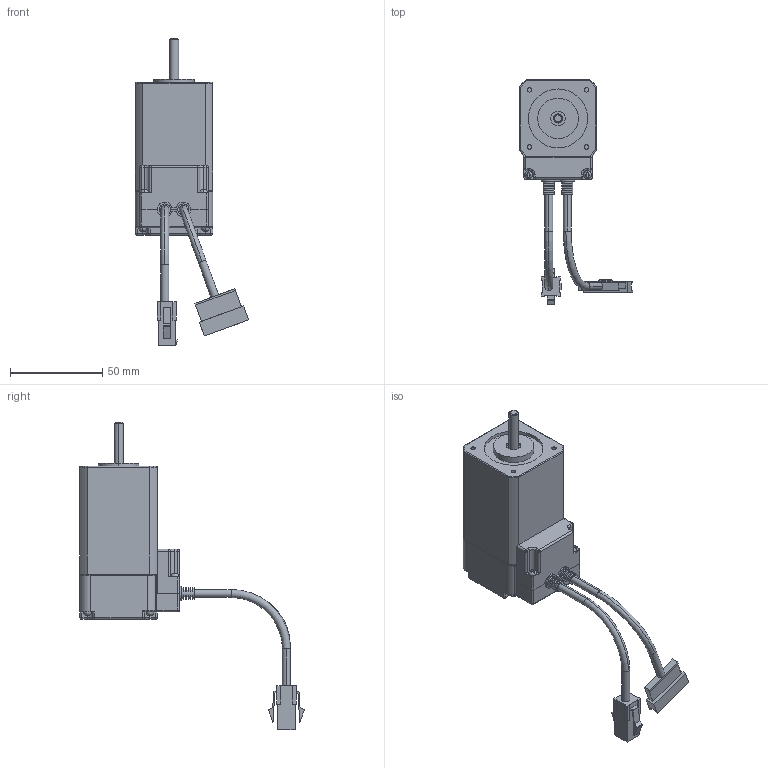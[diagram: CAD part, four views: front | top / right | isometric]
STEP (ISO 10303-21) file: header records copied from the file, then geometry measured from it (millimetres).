
FILE_DESCRIPTION (( 'STEP AP203' ), '1' );
FILE_NAME ('EzM-42XL Assembly_091218.STEP', '2013-11-19T08:23:11', ( '' ), ( '' ), 'SwSTEP 2.0', 'SolidWorks 2012', '' );
FILE_SCHEMA (( 'CONFIG_CONTROL_DESIGN' ));
Length unit declared in the file: millimetre
Products named in the file (9): MainEZSV_42_Cable_Cover-1; EzM-42XL Assembly_091218; MainEzM-42XL-assembly-1; Mainconnector_e-1-8; Maincable-1-5; MainEzM-42XL-1; MainM3-screw-1-4; MainEncoder_Mounting_Plate-1-5; MainEZSV_42_Encoder_Cover-1
Assembly tree (13 placements, depth 3):
  EzM-42XL Assembly_091218
    MainEzM-42XL-assembly-1
      MainEZSV_42_Cable_Cover-1
      MainEZSV_42_Encoder_Cover-1
      MainEncoder_Mounting_Plate-1-5
      MainM3-screw-1-4  x6
      MainEzM-42XL-1
      Maincable-1-5
      Mainconnector_e-1-8
Bounding box: 61.49 x 121.64 x 167 mm (x, y, z)
Volume: 123506.5 mm3; surface area: 41344.6 mm2
Topology: 12 solids, 12 shells, 779 faces, 2056 edges, 1324 vertices
Faces by surface type: plane 433, cylinder 287, sphere 34, torus 12, bspline 10, cone 3
Entity records: 21813 total; most frequent: CARTESIAN_POINT 4043, DIRECTION 3635, ORIENTED_EDGE 3404, EDGE_CURVE 1702, AXIS2_PLACEMENT_3D 1314, VERTEX_POINT 1104, VECTOR 1007, LINE 1007
